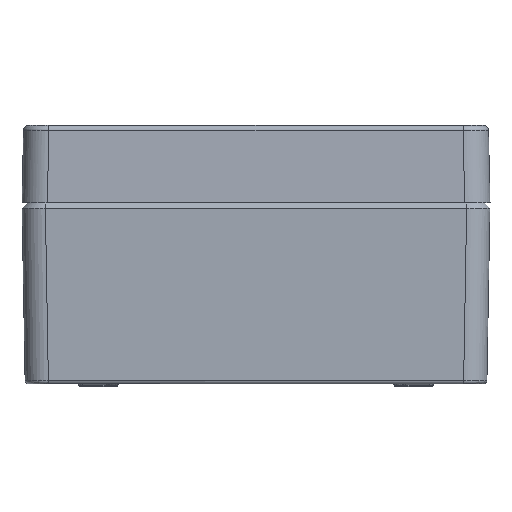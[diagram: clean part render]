
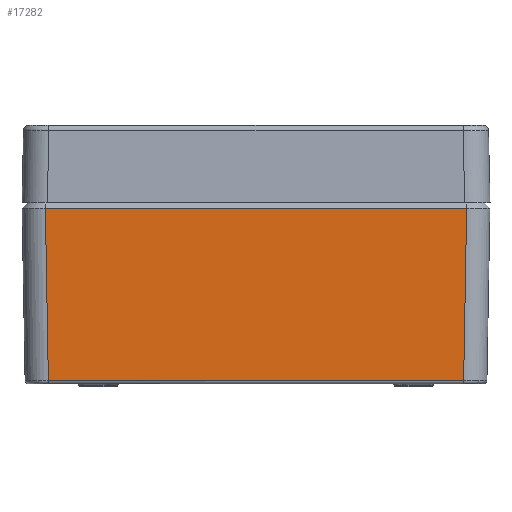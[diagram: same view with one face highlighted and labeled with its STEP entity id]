
A CAD part, left-side view. The second image highlights one B-rep face of the part: STEP entity #17282.
In plain terms, the highlighted planar face has unit normal (-1, 0, -0.018).
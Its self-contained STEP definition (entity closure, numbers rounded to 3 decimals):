
#706 = LINE ( 'NONE', #4163, #10333 ) ;
#1831 = CARTESIAN_POINT ( 'NONE',  ( -90.465, 81.466, -2. ) ) ;
#3716 = PLANE ( 'NONE',  #13500 ) ;
#3990 = VECTOR ( 'NONE', #4987, 1000. ) ;
#4163 = CARTESIAN_POINT ( 'NONE',  ( -90.465, -81.466, -2. ) ) ;
#4710 = ORIENTED_EDGE ( 'NONE', *, *, #19879, .F. ) ;
#4987 = DIRECTION ( 'NONE',  ( 0., 1., 0. ) ) ;
#5141 = CARTESIAN_POINT ( 'NONE',  ( -89.304, 80.305, -68.526 ) ) ;
#5873 = CARTESIAN_POINT ( 'NONE',  ( -89.304, 80.305, -68.526 ) ) ;
#7837 = ORIENTED_EDGE ( 'NONE', *, *, #18719, .F. ) ;
#9387 = LINE ( 'NONE', #24399, #3990 ) ;
#10283 = LINE ( 'NONE', #5873, #18044 ) ;
#10333 = VECTOR ( 'NONE', #13468, 1000. ) ;
#11499 = DIRECTION ( 'NONE',  ( 1., 0., 0.017 ) ) ;
#12060 = ORIENTED_EDGE ( 'NONE', *, *, #20199, .F. ) ;
#13468 = DIRECTION ( 'NONE',  ( 0.017, 0.017, -1. ) ) ;
#13500 = AXIS2_PLACEMENT_3D ( 'NONE', #15031, #11499, #16948 ) ;
#14898 = VERTEX_POINT ( 'NONE', #21376 ) ;
#15031 = CARTESIAN_POINT ( 'NONE',  ( -90.5, 0., 0. ) ) ;
#15744 = VECTOR ( 'NONE', #18293, 1000. ) ;
#16948 = DIRECTION ( 'NONE',  ( 0.017, 0., -1. ) ) ;
#17282 = ADVANCED_FACE ( 'NONE', ( #23103 ), #3716, .F. ) ;
#18044 = VECTOR ( 'NONE', #21106, 1000. ) ;
#18293 = DIRECTION ( 'NONE',  ( 0., -1., 0. ) ) ;
#18379 = CARTESIAN_POINT ( 'NONE',  ( -90.465, 0., -2. ) ) ;
#18719 = EDGE_CURVE ( 'NONE', #20611, #21837, #20228, .T. ) ;
#19008 = ORIENTED_EDGE ( 'NONE', *, *, #21098, .F. ) ;
#19315 = CARTESIAN_POINT ( 'NONE',  ( -90.465, -81.466, -2. ) ) ;
#19879 = EDGE_CURVE ( 'NONE', #21837, #14898, #706, .T. ) ;
#20199 = EDGE_CURVE ( 'NONE', #14898, #20970, #9387, .T. ) ;
#20228 = LINE ( 'NONE', #18379, #15744 ) ;
#20611 = VERTEX_POINT ( 'NONE', #1831 ) ;
#20970 = VERTEX_POINT ( 'NONE', #5141 ) ;
#21098 = EDGE_CURVE ( 'NONE', #20970, #20611, #10283, .T. ) ;
#21106 = DIRECTION ( 'NONE',  ( -0.017, 0.017, 1. ) ) ;
#21376 = CARTESIAN_POINT ( 'NONE',  ( -89.304, -80.305, -68.526 ) ) ;
#21837 = VERTEX_POINT ( 'NONE', #19315 ) ;
#23103 = FACE_OUTER_BOUND ( 'NONE', #24365, .T. ) ;
#24365 = EDGE_LOOP ( 'NONE', ( #19008, #12060, #4710, #7837 ) ) ;
#24399 = CARTESIAN_POINT ( 'NONE',  ( -89.304, 0.11, -68.526 ) ) ;
